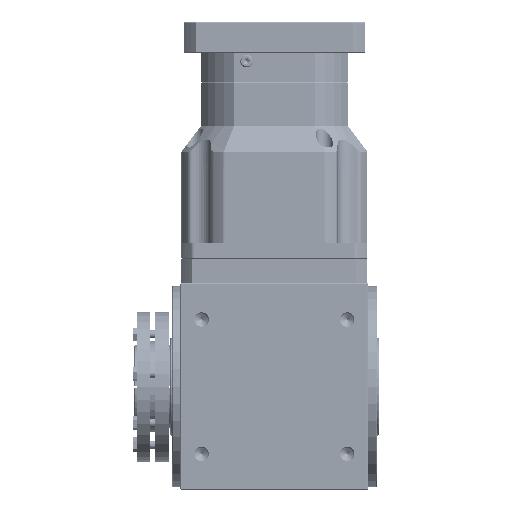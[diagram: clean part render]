
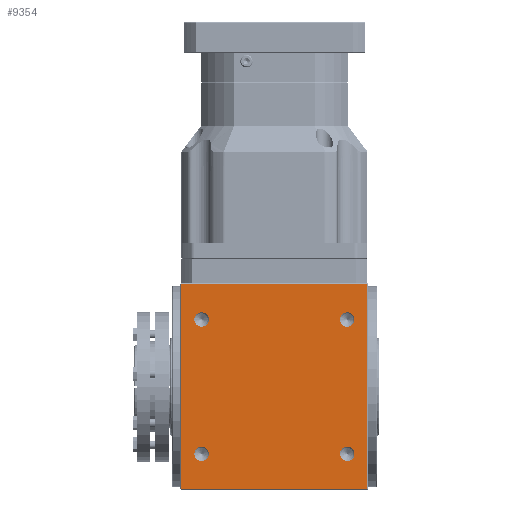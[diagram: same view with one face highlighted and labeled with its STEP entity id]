
A CAD part, front view. The second image highlights one B-rep face of the part: STEP entity #9354.
In plain terms, the highlighted planar face has unit normal (0, -1, 0) as drawn and (0, 0, -1) by its records, which use the part's own axes.
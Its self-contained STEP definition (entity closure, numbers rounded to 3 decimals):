
#334 = DIRECTION ( 'NONE',  ( 0., 1., 0. ) ) ;
#2373 = ORIENTED_EDGE ( 'NONE', *, *, #56557, .F. ) ;
#2705 = VERTEX_POINT ( 'NONE', #4650 ) ;
#3231 = CARTESIAN_POINT ( 'NONE',  ( -70.5, -65., -100. ) ) ;
#3871 = ORIENTED_EDGE ( 'NONE', *, *, #62887, .F. ) ;
#3912 = DIRECTION ( 'NONE',  ( 0., 0., -1. ) ) ;
#4650 = CARTESIAN_POINT ( 'NONE',  ( -70.5, -58., -100. ) ) ;
#4831 = ORIENTED_EDGE ( 'NONE', *, *, #90005, .F. ) ;
#5434 = PLANE ( 'NONE',  #111498 ) ;
#6585 = AXIS2_PLACEMENT_3D ( 'NONE', #129004, #58044, #140855 ) ;
#9354 = ADVANCED_FACE ( 'NONE', ( #84110, #80319, #115565, #48825, #17217 ), #5434, .F. ) ;
#14491 = AXIS2_PLACEMENT_3D ( 'NONE', #44483, #127367, #56410 ) ;
#15238 = DIRECTION ( 'NONE',  ( 0., 1., 0. ) ) ;
#16215 = EDGE_CURVE ( 'NONE', #108300, #146469, #31010, .T. ) ;
#16903 = ORIENTED_EDGE ( 'NONE', *, *, #53209, .F. ) ;
#17217 = FACE_BOUND ( 'NONE', #23552, .T. ) ;
#22190 = CARTESIAN_POINT ( 'NONE',  ( 70.5, -72., -100. ) ) ;
#22353 = CIRCLE ( 'NONE', #6585, 7. ) ;
#23552 = EDGE_LOOP ( 'NONE', ( #16903, #33620 ) ) ;
#25391 = CARTESIAN_POINT ( 'NONE',  ( 70.5, 72., -100. ) ) ;
#25503 = VERTEX_POINT ( 'NONE', #50613 ) ;
#26994 = ORIENTED_EDGE ( 'NONE', *, *, #28922, .F. ) ;
#27439 = ORIENTED_EDGE ( 'NONE', *, *, #70263, .F. ) ;
#28845 = VECTOR ( 'NONE', #148940, 1000. ) ;
#28922 = EDGE_CURVE ( 'NONE', #128193, #2705, #113349, .T. ) ;
#29171 = ORIENTED_EDGE ( 'NONE', *, *, #57664, .F. ) ;
#29282 = EDGE_CURVE ( 'NONE', #59485, #68462, #22353, .T. ) ;
#29605 = ORIENTED_EDGE ( 'NONE', *, *, #29282, .F. ) ;
#30649 = DIRECTION ( 'NONE',  ( 0., 0., -1. ) ) ;
#30948 = CARTESIAN_POINT ( 'NONE',  ( -90., 99., -100. ) ) ;
#31010 = CIRCLE ( 'NONE', #109632, 7. ) ;
#33100 = VECTOR ( 'NONE', #113868, 1000. ) ;
#33620 = ORIENTED_EDGE ( 'NONE', *, *, #16215, .F. ) ;
#35162 = VERTEX_POINT ( 'NONE', #140374 ) ;
#35247 = EDGE_LOOP ( 'NONE', ( #107271, #94474, #51634, #4831 ) ) ;
#36602 = AXIS2_PLACEMENT_3D ( 'NONE', #119969, #48895, #131732 ) ;
#41620 = AXIS2_PLACEMENT_3D ( 'NONE', #75181, #3912, #87102 ) ;
#44029 = LINE ( 'NONE', #72129, #71938 ) ;
#44483 = CARTESIAN_POINT ( 'NONE',  ( 70.5, 65., -100. ) ) ;
#45665 = CIRCLE ( 'NONE', #47735, 7. ) ;
#46442 = VECTOR ( 'NONE', #91597, 1000. ) ;
#47735 = AXIS2_PLACEMENT_3D ( 'NONE', #142466, #71633, #334 ) ;
#48319 = EDGE_LOOP ( 'NONE', ( #27439, #26994 ) ) ;
#48743 = DIRECTION ( 'NONE',  ( 0., 1., 0. ) ) ;
#48825 = FACE_BOUND ( 'NONE', #146356, .T. ) ;
#48895 = DIRECTION ( 'NONE',  ( 0., 0., -1. ) ) ;
#49627 = AXIS2_PLACEMENT_3D ( 'NONE', #3231, #86434, #15238 ) ;
#50613 = CARTESIAN_POINT ( 'NONE',  ( -90., 99., -100. ) ) ;
#51634 = ORIENTED_EDGE ( 'NONE', *, *, #80173, .F. ) ;
#53209 = EDGE_CURVE ( 'NONE', #146469, #108300, #45665, .T. ) ;
#53337 = CARTESIAN_POINT ( 'NONE',  ( -90., 99., -100. ) ) ;
#56410 = DIRECTION ( 'NONE',  ( 0., 1., 0. ) ) ;
#56557 = EDGE_CURVE ( 'NONE', #68462, #59485, #101120, .T. ) ;
#56990 = VERTEX_POINT ( 'NONE', #150386 ) ;
#57664 = EDGE_CURVE ( 'NONE', #68205, #122828, #78143, .T. ) ;
#58044 = DIRECTION ( 'NONE',  ( 0., 0., -1. ) ) ;
#59070 = CARTESIAN_POINT ( 'NONE',  ( -70.5, 65., -100. ) ) ;
#59485 = VERTEX_POINT ( 'NONE', #129513 ) ;
#62887 = EDGE_CURVE ( 'NONE', #122828, #68205, #109282, .T. ) ;
#65271 = DIRECTION ( 'NONE',  ( 1., 0., 0. ) ) ;
#68205 = VERTEX_POINT ( 'NONE', #149133 ) ;
#68462 = VERTEX_POINT ( 'NONE', #25391 ) ;
#68898 = CARTESIAN_POINT ( 'NONE',  ( 70.5, -58., -100. ) ) ;
#70263 = EDGE_CURVE ( 'NONE', #2705, #128193, #83259, .T. ) ;
#71040 = DIRECTION ( 'NONE',  ( 0., 1., 0. ) ) ;
#71633 = DIRECTION ( 'NONE',  ( 0., 0., -1. ) ) ;
#71938 = VECTOR ( 'NONE', #48743, 1000. ) ;
#72129 = CARTESIAN_POINT ( 'NONE',  ( 90., 99., -100. ) ) ;
#75181 = CARTESIAN_POINT ( 'NONE',  ( -70.5, 65., -100. ) ) ;
#78143 = CIRCLE ( 'NONE', #41620, 7. ) ;
#79683 = CARTESIAN_POINT ( 'NONE',  ( -90., -99., -100. ) ) ;
#80173 = EDGE_CURVE ( 'NONE', #56990, #148563, #44029, .T. ) ;
#80319 = FACE_BOUND ( 'NONE', #48319, .T. ) ;
#80348 = CARTESIAN_POINT ( 'NONE',  ( -70.5, 58., -100. ) ) ;
#83259 = CIRCLE ( 'NONE', #49627, 7. ) ;
#84110 = FACE_OUTER_BOUND ( 'NONE', #35247, .T. ) ;
#85040 = EDGE_CURVE ( 'NONE', #148563, #25503, #92458, .T. ) ;
#86171 = EDGE_CURVE ( 'NONE', #25503, #35162, #123382, .T. ) ;
#86434 = DIRECTION ( 'NONE',  ( 0., 0., -1. ) ) ;
#87102 = DIRECTION ( 'NONE',  ( 0., 1., 0. ) ) ;
#87293 = AXIS2_PLACEMENT_3D ( 'NONE', #59070, #141866, #71040 ) ;
#89545 = CARTESIAN_POINT ( 'NONE',  ( -90., 99., -100. ) ) ;
#90005 = EDGE_CURVE ( 'NONE', #35162, #56990, #109547, .T. ) ;
#91597 = DIRECTION ( 'NONE',  ( 1., 0., 0. ) ) ;
#92458 = LINE ( 'NONE', #30948, #33100 ) ;
#94474 = ORIENTED_EDGE ( 'NONE', *, *, #85040, .F. ) ;
#98523 = CARTESIAN_POINT ( 'NONE',  ( 90., 99., -100. ) ) ;
#101120 = CIRCLE ( 'NONE', #14491, 7. ) ;
#101715 = CARTESIAN_POINT ( 'NONE',  ( 70.5, -65., -100. ) ) ;
#107271 = ORIENTED_EDGE ( 'NONE', *, *, #86171, .F. ) ;
#108300 = VERTEX_POINT ( 'NONE', #22190 ) ;
#109282 = CIRCLE ( 'NONE', #87293, 7. ) ;
#109547 = LINE ( 'NONE', #79683, #46442 ) ;
#109632 = AXIS2_PLACEMENT_3D ( 'NONE', #101715, #30649, #113584 ) ;
#111498 = AXIS2_PLACEMENT_3D ( 'NONE', #53337, #136145, #65271 ) ;
#113349 = CIRCLE ( 'NONE', #36602, 7. ) ;
#113584 = DIRECTION ( 'NONE',  ( 0., 1., 0. ) ) ;
#113868 = DIRECTION ( 'NONE',  ( -1., 0., 0. ) ) ;
#115565 = FACE_BOUND ( 'NONE', #149867, .T. ) ;
#119969 = CARTESIAN_POINT ( 'NONE',  ( -70.5, -65., -100. ) ) ;
#122828 = VERTEX_POINT ( 'NONE', #80348 ) ;
#123382 = LINE ( 'NONE', #89545, #28845 ) ;
#127367 = DIRECTION ( 'NONE',  ( 0., 0., -1. ) ) ;
#128193 = VERTEX_POINT ( 'NONE', #152076 ) ;
#129004 = CARTESIAN_POINT ( 'NONE',  ( 70.5, 65., -100. ) ) ;
#129513 = CARTESIAN_POINT ( 'NONE',  ( 70.5, 58., -100. ) ) ;
#131732 = DIRECTION ( 'NONE',  ( 0., 1., 0. ) ) ;
#136145 = DIRECTION ( 'NONE',  ( 0., 0., 1. ) ) ;
#140374 = CARTESIAN_POINT ( 'NONE',  ( -90., -99., -100. ) ) ;
#140855 = DIRECTION ( 'NONE',  ( 0., 1., 0. ) ) ;
#141866 = DIRECTION ( 'NONE',  ( 0., 0., -1. ) ) ;
#142466 = CARTESIAN_POINT ( 'NONE',  ( 70.5, -65., -100. ) ) ;
#146356 = EDGE_LOOP ( 'NONE', ( #2373, #29605 ) ) ;
#146469 = VERTEX_POINT ( 'NONE', #68898 ) ;
#148563 = VERTEX_POINT ( 'NONE', #98523 ) ;
#148940 = DIRECTION ( 'NONE',  ( 0., -1., 0. ) ) ;
#149133 = CARTESIAN_POINT ( 'NONE',  ( -70.5, 72., -100. ) ) ;
#149867 = EDGE_LOOP ( 'NONE', ( #29171, #3871 ) ) ;
#150386 = CARTESIAN_POINT ( 'NONE',  ( 90., -99., -100. ) ) ;
#152076 = CARTESIAN_POINT ( 'NONE',  ( -70.5, -72., -100. ) ) ;
